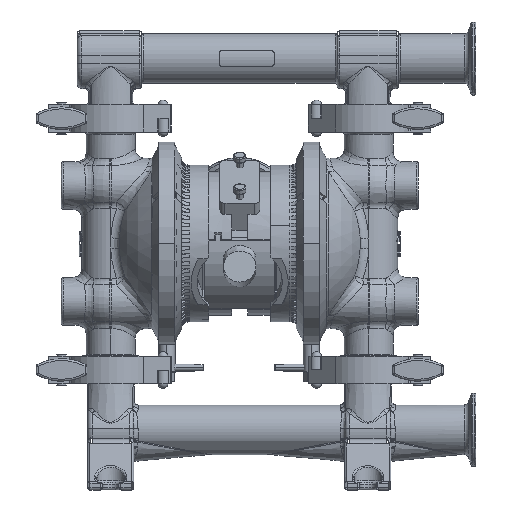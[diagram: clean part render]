
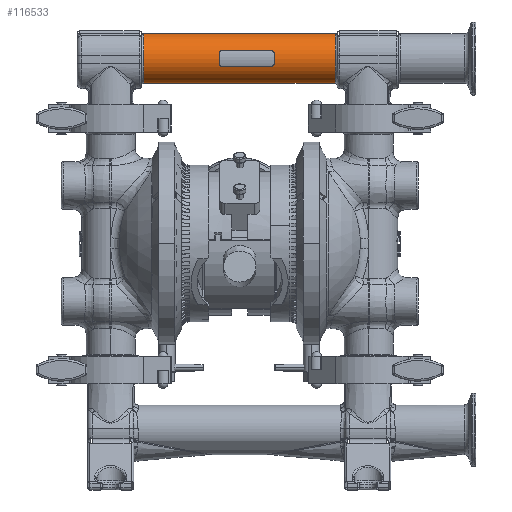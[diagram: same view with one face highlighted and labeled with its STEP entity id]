
A CAD part, top view. The second image highlights one B-rep face of the part: STEP entity #116533.
In plain terms, the highlighted cylindrical face has radius 17.145 mm (diameter 34.29 mm), a partial arc.
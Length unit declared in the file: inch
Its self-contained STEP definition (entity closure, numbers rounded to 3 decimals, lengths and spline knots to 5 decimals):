
#112578=CARTESIAN_POINT('',(-2.612,5.025,0.));
#112579=DIRECTION('',(-1.,0.,0.));
#112580=DIRECTION('',(0.,-1.,0.));
#112581=AXIS2_PLACEMENT_3D('',#112578,#112579,#112580);
#112583=CARTESIAN_POINT('',(-2.612,5.65867,0.23256));
#112584=CARTESIAN_POINT('',(-2.612,5.66311,
0.22046));
#112585=CARTESIAN_POINT('',(-2.61259,5.67167,
0.19499));
#112586=CARTESIAN_POINT('',(-2.61475,5.68291,
0.15313));
#112587=CARTESIAN_POINT('',(-2.61752,5.69204,
0.1071));
#112588=CARTESIAN_POINT('',(-2.62,5.69833,
0.05658));
#112589=CARTESIAN_POINT('',(-2.62075,5.7,
0.01938));
#112590=CARTESIAN_POINT('',(-2.62076,5.7,
0.));
#112592=DIRECTION('',(-1.,0.,0.));
#112593=VECTOR('',#112592,5.22051);
#112594=CARTESIAN_POINT('',(2.59976,5.7,
0.));
#112595=LINE('',#112594,#112593);
#112596=CARTESIAN_POINT('',(2.59976,5.7,
0.));
#112597=CARTESIAN_POINT('',(2.59975,5.7,
0.01938));
#112598=CARTESIAN_POINT('',(2.599,5.69833,
0.05658));
#112599=CARTESIAN_POINT('',(2.59652,5.69204,
0.1071));
#112600=CARTESIAN_POINT('',(2.59375,5.68291,
0.15313));
#112601=CARTESIAN_POINT('',(2.59159,5.67167,
0.19499));
#112602=CARTESIAN_POINT('',(2.591,5.66311,
0.22046));
#112603=CARTESIAN_POINT('',(2.591,5.65867,0.23256));
#112605=CARTESIAN_POINT('',(2.591,5.025,0.));
#112606=DIRECTION('',(1.,0.,0.));
#112607=DIRECTION('',(0.,0.939,0.345));
#112608=AXIS2_PLACEMENT_3D('',#112605,#112606,#112607);
#112610=DIRECTION('',(-1.,0.,0.));
#112611=VECTOR('',#112610,5.203);
#112612=CARTESIAN_POINT('',(2.591,4.35,0.));
#112613=LINE('',#112612,#112611);
#116172=CARTESIAN_POINT('',(-2.612,4.35,0.));
#116174=VERTEX_POINT('',#116172);
#116175=CARTESIAN_POINT('',(-2.612,5.65867,0.23256));
#116176=VERTEX_POINT('',#116175);
#116177=CARTESIAN_POINT('',(2.591,4.35,0.));
#116179=VERTEX_POINT('',#116177);
#116181=CARTESIAN_POINT('',(2.591,5.65867,0.23256));
#116182=VERTEX_POINT('',#116181);
#116189=CARTESIAN_POINT('',(2.59976,5.7,
0.));
#116190=CARTESIAN_POINT('',(-2.62076,5.7,
0.));
#116191=VERTEX_POINT('',#116189);
#116192=VERTEX_POINT('',#116190);
#116514=CARTESIAN_POINT('',(6.94695,5.025,0.));
#116515=DIRECTION('',(-1.,0.,0.));
#116516=DIRECTION('',(0.,1.,0.));
#116517=AXIS2_PLACEMENT_3D('',#116514,#116515,#116516);
#116518=CYLINDRICAL_SURFACE('',#116517,0.675);
#116520=ORIENTED_EDGE('',*,*,#116519,.T.);
#116522=ORIENTED_EDGE('',*,*,#116521,.T.);
#116524=ORIENTED_EDGE('',*,*,#116523,.F.);
#116526=ORIENTED_EDGE('',*,*,#116525,.T.);
#116528=ORIENTED_EDGE('',*,*,#116527,.T.);
#116530=ORIENTED_EDGE('',*,*,#116529,.T.);
#116531=EDGE_LOOP('',(#116520,#116522,#116524,#116526,#116528,#116530));
#116532=FACE_OUTER_BOUND('',#116531,.F.);
#116533=ADVANCED_FACE('',(#116532),#116518,.T.);
#112582=CIRCLE('',#112581,0.675);
#112591=B_SPLINE_CURVE_WITH_KNOTS('',3,(#112583,#112584,#112585,#112586,#112587,
#112588,#112589,#112590),.UNSPECIFIED.,.F.,.F.,(4,1,1,1,1,4),(0.,0.2,0.4,
0.6,0.8,1.),.UNSPECIFIED.);
#112604=B_SPLINE_CURVE_WITH_KNOTS('',3,(#112596,#112597,#112598,#112599,#112600,
#112601,#112602,#112603),.UNSPECIFIED.,.F.,.F.,(4,1,1,1,1,4),(0.,0.2,0.4,
0.6,0.8,1.),.UNSPECIFIED.);
#112609=CIRCLE('',#112608,0.675);
#116519=EDGE_CURVE('',#116174,#116176,#112582,.T.);
#116521=EDGE_CURVE('',#116176,#116192,#112591,.T.);
#116523=EDGE_CURVE('',#116191,#116192,#112595,.T.);
#116525=EDGE_CURVE('',#116191,#116182,#112604,.T.);
#116527=EDGE_CURVE('',#116182,#116179,#112609,.T.);
#116529=EDGE_CURVE('',#116179,#116174,#112613,.T.);
